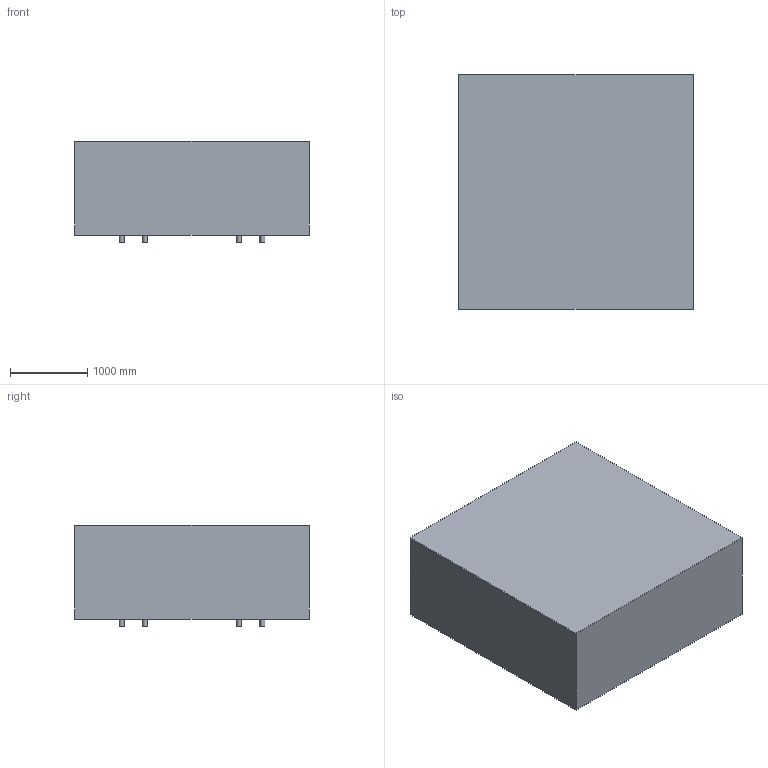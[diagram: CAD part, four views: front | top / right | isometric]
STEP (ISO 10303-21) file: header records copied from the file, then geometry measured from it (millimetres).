
FILE_DESCRIPTION(/* description */ ('STEP AP203'),/* implementation_level */ '2;1');
FILE_NAME(/* name */ 'C:\Users\Staratech02\Desktop\Ghandakly-Curran electrodes study model.stp',/* time_stamp */ '2022-02-15T09:08:50+01:00',/* author */ ('Staratech02'),/* organization */ ('Hewlett-Packard Company'),/* preprocessor_version */ 'ST-DEVELOPER v18.1',/* originating_system */ 'Autodesk Inventor 2022',/* authorisation */ '');
FILE_SCHEMA (('CONFIG_CONTROL_DESIGN'));
Length unit declared in the file: millimetre
Products named in the file (1): Ghandakly-Curran electrodes study model
Bounding box: 3048 x 3048 x 1319.2 mm (x, y, z)
Volume: 11329272174.2 mm3; surface area: 36168627.2 mm2
Topology: 9 solids, 9 shells, 46 faces, 60 edges, 40 vertices
Faces by surface type: plane 30, cylinder 16
Full cylindrical faces by diameter (mm): 63.5 x16
Entity records: 991 total; most frequent: DIRECTION 186, CARTESIAN_POINT 147, ORIENTED_EDGE 120, AXIS2_PLACEMENT_3D 79, EDGE_CURVE 60, EDGE_LOOP 54, FACE_OUTER_BOUND 46, ADVANCED_FACE 46
